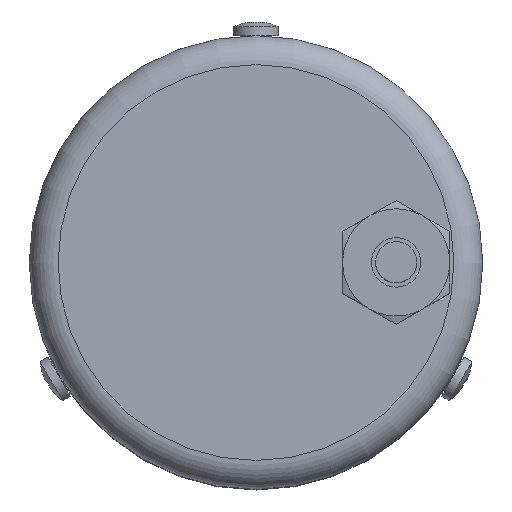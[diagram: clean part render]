
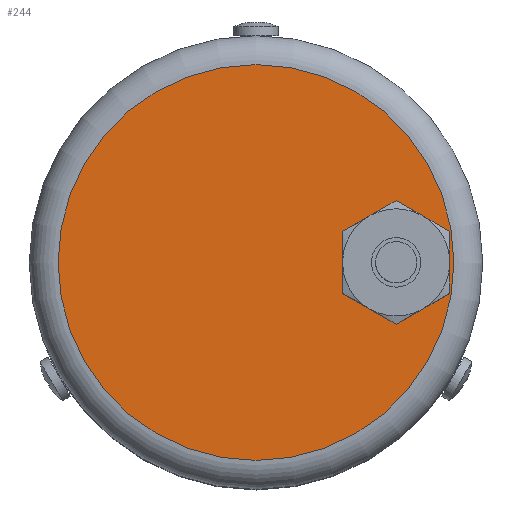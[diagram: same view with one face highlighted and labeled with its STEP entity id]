
A CAD part, top view. The second image highlights one B-rep face of the part: STEP entity #244.
In plain terms, the highlighted planar face has unit normal (0, 0, 1).
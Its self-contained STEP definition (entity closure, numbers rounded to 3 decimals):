
#244=ADVANCED_FACE('',(#564,#565),#566,.F.);
#564=FACE_BOUND('',#1006,.T.);
#565=FACE_OUTER_BOUND('',#1007,.T.);
#566=PLANE('',#1008);
#1006=EDGE_LOOP('',(#1583,#1584,#1585,#1586,#1587,#1588,#1589,#1590,#1591,#1592,#1593,#1594));
#1007=EDGE_LOOP('',(#1595));
#1008=AXIS2_PLACEMENT_3D('',#1596,#1597,#1598);
#1583=ORIENTED_EDGE('',*,*,#2481,.F.);
#1584=ORIENTED_EDGE('',*,*,#2418,.T.);
#1585=ORIENTED_EDGE('',*,*,#2478,.F.);
#1586=ORIENTED_EDGE('',*,*,#2474,.T.);
#1587=ORIENTED_EDGE('',*,*,#2472,.F.);
#1588=ORIENTED_EDGE('',*,*,#2431,.T.);
#1589=ORIENTED_EDGE('',*,*,#2462,.F.);
#1590=ORIENTED_EDGE('',*,*,#2464,.T.);
#1591=ORIENTED_EDGE('',*,*,#2427,.F.);
#1592=ORIENTED_EDGE('',*,*,#2440,.T.);
#1593=ORIENTED_EDGE('',*,*,#2469,.F.);
#1594=ORIENTED_EDGE('',*,*,#2485,.T.);
#1595=ORIENTED_EDGE('',*,*,#2409,.F.);
#1596=CARTESIAN_POINT('',(0.,12.0,51.5));
#1597=DIRECTION('',(0.,0.,-1.0));
#1598=DIRECTION('',(-1.0,0.,0.));
#2409=EDGE_CURVE('',#2831,#2831,#2832,.T.);
#2418=EDGE_CURVE('',#2847,#2845,#2848,.T.);
#2427=EDGE_CURVE('',#2862,#2860,#2864,.T.);
#2431=EDGE_CURVE('',#2871,#2869,#2872,.T.);
#2440=EDGE_CURVE('',#2862,#2886,#2888,.T.);
#2462=EDGE_CURVE('',#2919,#2869,#2921,.T.);
#2464=EDGE_CURVE('',#2919,#2860,#2923,.T.);
#2469=EDGE_CURVE('',#2927,#2886,#2929,.T.);
#2472=EDGE_CURVE('',#2871,#2931,#2933,.T.);
#2474=EDGE_CURVE('',#2935,#2931,#2936,.T.);
#2478=EDGE_CURVE('',#2935,#2845,#2940,.T.);
#2481=EDGE_CURVE('',#2847,#2942,#2944,.T.);
#2485=EDGE_CURVE('',#2927,#2942,#2949,.T.);
#2831=VERTEX_POINT('',#3796);
#2832=CIRCLE('',#3797,24.0);
#2845=VERTEX_POINT('',#3811);
#2847=VERTEX_POINT('',#3816);
#2848=LINE('',#3817,#3818);
#2860=VERTEX_POINT('',#3845);
#2862=VERTEX_POINT('',#3850);
#2864=CIRCLE('',#3857,6.5);
#2869=VERTEX_POINT('',#3863);
#2871=VERTEX_POINT('',#3868);
#2872=LINE('',#3869,#3870);
#2886=VERTEX_POINT('',#3900);
#2888=LINE('',#3905,#3906);
#2919=VERTEX_POINT('',#3958);
#2921=CIRCLE('',#3965,6.5);
#2923=LINE('',#3967,#3968);
#2927=VERTEX_POINT('',#3980);
#2929=CIRCLE('',#3987,6.5);
#2931=VERTEX_POINT('',#3989);
#2933=CIRCLE('',#3994,6.5);
#2935=VERTEX_POINT('',#3996);
#2936=LINE('',#3997,#3998);
#2940=CIRCLE('',#4012,6.5);
#2942=VERTEX_POINT('',#4014);
#2944=CIRCLE('',#4019,6.5);
#2949=LINE('',#4024,#4025);
#3796=CARTESIAN_POINT('',(-24.0,0.,51.5));
#3797=AXIS2_PLACEMENT_3D('',#4726,#4727,#4728);
#3811=CARTESIAN_POINT('',(20.031,-5.75,51.5));
#3816=CARTESIAN_POINT('',(20.464,-5.5,51.5));
#3817=CARTESIAN_POINT('',(20.248,-5.625,51.5));
#3818=VECTOR('',#4739,1.0);
#3845=CARTESIAN_POINT('',(13.969,5.75,51.5));
#3850=CARTESIAN_POINT('',(20.031,5.75,51.5));
#3857=AXIS2_PLACEMENT_3D('',#4742,#4743,#4744);
#3863=CARTESIAN_POINT('',(10.505,0.25,51.5));
#3868=CARTESIAN_POINT('',(10.505,-0.25,51.5));
#3869=CARTESIAN_POINT('',(10.505,0.,51.5));
#3870=VECTOR('',#4746,1.0);
#3900=CARTESIAN_POINT('',(20.464,5.5,51.5));
#3905=CARTESIAN_POINT('',(20.248,5.625,51.5));
#3906=VECTOR('',#4750,1.0);
#3958=CARTESIAN_POINT('',(13.536,5.5,51.5));
#3965=AXIS2_PLACEMENT_3D('',#4777,#4778,#4779);
#3967=CARTESIAN_POINT('',(13.752,5.625,51.5));
#3968=VECTOR('',#4780,1.0);
#3980=CARTESIAN_POINT('',(23.495,0.25,51.5));
#3987=AXIS2_PLACEMENT_3D('',#4781,#4782,#4783);
#3989=CARTESIAN_POINT('',(13.536,-5.5,51.5));
#3994=AXIS2_PLACEMENT_3D('',#4784,#4785,#4786);
#3996=CARTESIAN_POINT('',(13.969,-5.75,51.5));
#3997=CARTESIAN_POINT('',(13.752,-5.625,51.5));
#3998=VECTOR('',#4787,1.0);
#4012=AXIS2_PLACEMENT_3D('',#4788,#4789,#4790);
#4014=CARTESIAN_POINT('',(23.495,-0.25,51.5));
#4019=AXIS2_PLACEMENT_3D('',#4791,#4792,#4793);
#4024=CARTESIAN_POINT('',(23.495,0.,51.5));
#4025=VECTOR('',#4797,1.0);
#4726=CARTESIAN_POINT('',(0.,0.,51.5));
#4727=DIRECTION('',(0.,0.,-1.0));
#4728=DIRECTION('',(-1.0,0.,0.));
#4739=DIRECTION('',(-0.866,-0.5,0.));
#4742=CARTESIAN_POINT('',(17.0,0.,51.5));
#4743=DIRECTION('',(0.,0.,1.0));
#4744=DIRECTION('',(0.,-1.0,0.));
#4746=DIRECTION('',(0.,1.0,0.));
#4750=DIRECTION('',(0.866,-0.5,0.));
#4777=CARTESIAN_POINT('',(17.0,0.,51.5));
#4778=DIRECTION('',(0.,0.,1.0));
#4779=DIRECTION('',(0.,-1.0,0.));
#4780=DIRECTION('',(0.866,0.5,0.));
#4781=CARTESIAN_POINT('',(17.0,0.,51.5));
#4782=DIRECTION('',(0.,0.,1.0));
#4783=DIRECTION('',(0.,-1.0,0.));
#4784=CARTESIAN_POINT('',(17.0,0.,51.5));
#4785=DIRECTION('',(0.,0.,1.0));
#4786=DIRECTION('',(0.,-1.0,0.));
#4787=DIRECTION('',(-0.866,0.5,0.));
#4788=CARTESIAN_POINT('',(17.0,0.,51.5));
#4789=DIRECTION('',(0.,0.,1.0));
#4790=DIRECTION('',(0.,-1.0,0.));
#4791=CARTESIAN_POINT('',(17.0,0.,51.5));
#4792=DIRECTION('',(0.,0.,1.0));
#4793=DIRECTION('',(0.,-1.0,0.));
#4797=DIRECTION('',(0.,-1.0,0.));
